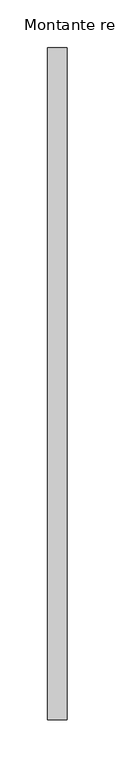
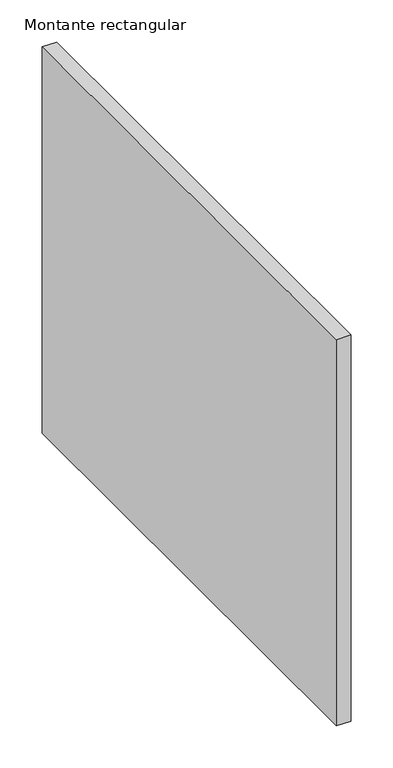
"""IFC4 building model written with IfcOpenShell, lengths in millimetres: member geometry, Montante rectangular : CIRCLES 2."""

from ifc_helpers import new_model, si_unit, frame, origin, place, context, project, spatial, polyline, outline, extrude, source, transform, mapped, element, save


def montante_rectangular_3e73b5a5(model_context):
    return source(origin(), model_context, "Body", "SweptSolid", [
        extrude(outline(polyline([(10.0, 350.0), (10.0, -350.0), (-10.0, -350.0), (-10.0, 350.0), (10.0, 350.0)])), frame((0.0, 0.0, -560.0), z_axis=(0.0, 0.0, 1.0), x_axis=(1.0, 0.0, 0.0)), (0.0, 0.0, 1.0), 560.0),
    ])


if __name__ == "__main__":
    model = new_model("IFC4")
    model_context = context("Model", 3, world=origin())
    ifc_project = project(units=[si_unit("LENGTHUNIT", "METRE", prefix="MILLI")], contexts=[model_context])
    site = spatial("IfcSite", under=ifc_project)
    building = spatial("IfcBuilding", under=site)
    placement = place(None, origin())
    montante_rectangular_shape = montante_rectangular_3e73b5a5(model_context)
    element("IfcMember", 1, ObjectType="Montante rectangular : CIRCLES 2", at=placement, inside=building, context=model_context, shape_type="MappedRepresentation", body=[
        mapped(montante_rectangular_shape, transform((0.0, 0.0, 0.0), x_axis=(1.0, 0.0, 0.0), y_axis=(0.0, 1.0, 0.0), z_axis=(0.0, 0.0, 1.0))),
    ])
    save(model, "model.ifc")
